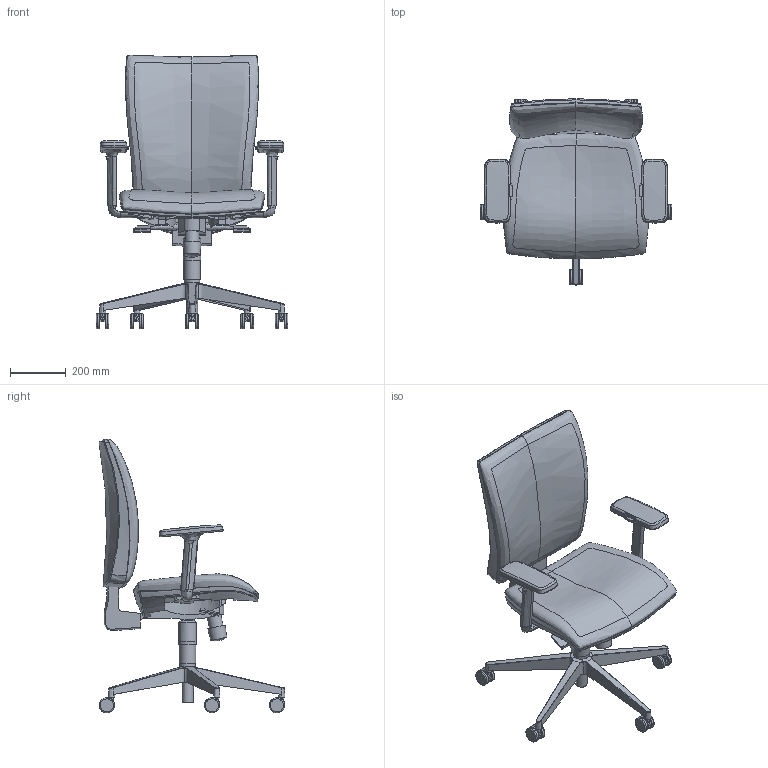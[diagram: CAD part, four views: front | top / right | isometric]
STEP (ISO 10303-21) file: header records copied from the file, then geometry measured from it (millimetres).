
FILE_DESCRIPTION(/* description */ (''),/* implementation_level */ '2;1');
FILE_NAME(/* name */ 'Lyra 207-SY',/* time_stamp */ '2018-10-22T21:06:25+02:00',/* author */ (''),/* organization */ (''),/* preprocessor_version */ 'ST-DEVELOPER v16.5',/* originating_system */ '',/* authorisation */ '');
FILE_SCHEMA (('AUTOMOTIVE_DESIGN'));
Length unit declared in the file: millimetre
Products named in the file (1): Document
Bounding box: 690.82 x 669.77 x 987.3 mm (x, y, z)
Volume: 3220555.6 mm3; surface area: 2018564.6 mm2
Topology: 15 solids, 46 shells, 422 faces, 1024 edges, 640 vertices
Faces by surface type: bspline 287, plane 135
Entity records: 32300 total; most frequent: CARTESIAN_POINT 26041, ORIENTED_EDGE 1907, EDGE_CURVE 1012, B_SPLINE_CURVE_WITH_KNOTS 630, VERTEX_POINT 628, ADVANCED_FACE 422, FACE_OUTER_BOUND 422, EDGE_LOOP 422
